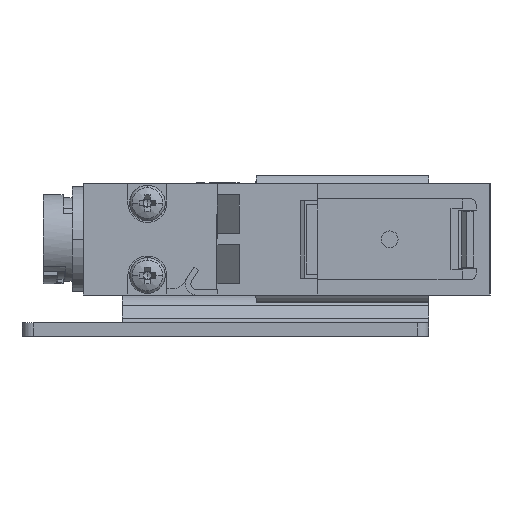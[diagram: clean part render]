
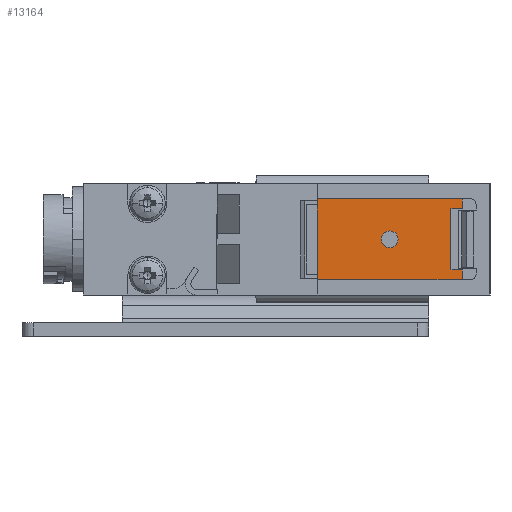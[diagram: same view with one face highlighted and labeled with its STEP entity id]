
A CAD part, left-side view. The second image highlights one B-rep face of the part: STEP entity #13164.
In plain terms, the highlighted planar face has unit normal (-1, 0, 0) as drawn and (0, 0, 1) by its records, which use the part's own axes.
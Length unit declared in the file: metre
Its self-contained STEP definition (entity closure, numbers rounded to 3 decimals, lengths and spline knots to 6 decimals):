
#67 = EDGE_CURVE ( 'NONE', #2129, #16964, #151, .T. ) ;
#151 = LINE ( 'NONE', #14212, #17950 ) ;
#277 = DIRECTION ( 'NONE',  ( 1., 0., 0. ) ) ;
#304 = LINE ( 'NONE', #439, #14815 ) ;
#439 = CARTESIAN_POINT ( 'NONE',  ( 0., 0.0046, 0.006 ) ) ;
#1110 = DIRECTION ( 'NONE',  ( 1., 0., 0. ) ) ;
#1193 = DIRECTION ( 'NONE',  ( 0., -1., 0. ) ) ;
#1234 = ORIENTED_EDGE ( 'NONE', *, *, #16060, .F. ) ;
#1520 = DIRECTION ( 'NONE',  ( 0., 1., 0. ) ) ;
#1561 = DIRECTION ( 'NONE',  ( 1., 0., 0. ) ) ;
#1687 = CARTESIAN_POINT ( 'NONE',  ( 0., 0.0166, 0.006 ) ) ;
#1704 = DIRECTION ( 'NONE',  ( 1., 0., 0. ) ) ;
#2035 = CARTESIAN_POINT ( 'NONE',  ( 0.00275, 0.0046, 0.006 ) ) ;
#2129 = VERTEX_POINT ( 'NONE', #2035 ) ;
#2336 = DIRECTION ( 'NONE',  ( 0., -1., 0. ) ) ;
#2356 = EDGE_CURVE ( 'NONE', #16964, #9794, #13511, .T. ) ;
#2508 = CIRCLE ( 'NONE', #3910, 0.00075 ) ;
#2556 = LINE ( 'NONE', #11503, #16612 ) ;
#2760 = CARTESIAN_POINT ( 'NONE',  ( 0.003625, 0.0036, 0.006 ) ) ;
#3372 = CARTESIAN_POINT ( 'NONE',  ( 0.003625, 0.0036, 0.006 ) ) ;
#3476 = EDGE_CURVE ( 'NONE', #14757, #13754, #13911, .T. ) ;
#3910 = AXIS2_PLACEMENT_3D ( 'NONE', #4469, #14287, #5888 ) ;
#4166 = CIRCLE ( 'NONE', #13413, 0.00075 ) ;
#4333 = ORIENTED_EDGE ( 'NONE', *, *, #7488, .F. ) ;
#4434 = CARTESIAN_POINT ( 'NONE',  ( -0.003625, 0.0036, 0.006 ) ) ;
#4469 = CARTESIAN_POINT ( 'NONE',  ( 0., 0.0101, 0.006 ) ) ;
#5255 = VECTOR ( 'NONE', #1520, 1. ) ;
#5282 = CARTESIAN_POINT ( 'NONE',  ( -0.00275, 0.0041, 0.006 ) ) ;
#5330 = ORIENTED_EDGE ( 'NONE', *, *, #16415, .F. ) ;
#5580 = DIRECTION ( 'NONE',  ( -1., 0., 0. ) ) ;
#5678 = DIRECTION ( 'NONE',  ( 0., 1., 0. ) ) ;
#5749 = CARTESIAN_POINT ( 'NONE',  ( -0.00275, 0.0036, 0.006 ) ) ;
#5888 = DIRECTION ( 'NONE',  ( 1., 0., 0. ) ) ;
#6023 = VECTOR ( 'NONE', #5678, 1. ) ;
#6312 = EDGE_CURVE ( 'NONE', #10377, #14757, #2556, .T. ) ;
#6685 = ORIENTED_EDGE ( 'NONE', *, *, #6312, .T. ) ;
#6781 = EDGE_LOOP ( 'NONE', ( #10499, #4333, #17205, #15856, #5330, #7239, #1234, #6685 ) ) ;
#7239 = ORIENTED_EDGE ( 'NONE', *, *, #17368, .F. ) ;
#7488 = EDGE_CURVE ( 'NONE', #2129, #13754, #304, .T. ) ;
#7861 = VERTEX_POINT ( 'NONE', #11326 ) ;
#7887 = EDGE_CURVE ( 'NONE', #8816, #17823, #2508, .T. ) ;
#8372 = PLANE ( 'NONE',  #12830 ) ;
#8607 = FACE_OUTER_BOUND ( 'NONE', #6781, .T. ) ;
#8816 = VERTEX_POINT ( 'NONE', #14827 ) ;
#9321 = CARTESIAN_POINT ( 'NONE',  ( 0.00275, 0.0036, 0.006 ) ) ;
#9526 = DIRECTION ( 'NONE',  ( 0., 0., 1. ) ) ;
#9758 = VECTOR ( 'NONE', #1561, 1. ) ;
#9794 = VERTEX_POINT ( 'NONE', #3372 ) ;
#10377 = VERTEX_POINT ( 'NONE', #4434 ) ;
#10499 = ORIENTED_EDGE ( 'NONE', *, *, #3476, .T. ) ;
#10718 = CARTESIAN_POINT ( 'NONE',  ( 0.003625, 0.0101, 0.006 ) ) ;
#10996 = CARTESIAN_POINT ( 'NONE',  ( -0.00075, 0.0101, 0.006 ) ) ;
#11012 = EDGE_CURVE ( 'NONE', #17823, #8816, #4166, .T. ) ;
#11143 = VECTOR ( 'NONE', #2336, 1. ) ;
#11323 = CARTESIAN_POINT ( 'NONE',  ( -0.003625, 0.0101, 0.006 ) ) ;
#11326 = CARTESIAN_POINT ( 'NONE',  ( -0.003625, 0.0166, 0.006 ) ) ;
#11503 = CARTESIAN_POINT ( 'NONE',  ( -0.003188, 0.0036, 0.006 ) ) ;
#11761 = EDGE_LOOP ( 'NONE', ( #13777, #13644 ) ) ;
#12010 = VECTOR ( 'NONE', #277, 1. ) ;
#12766 = FACE_BOUND ( 'NONE', #11761, .T. ) ;
#12830 = AXIS2_PLACEMENT_3D ( 'NONE', #2760, #13982, #5580 ) ;
#13077 = DIRECTION ( 'NONE',  ( -1., 0., 0. ) ) ;
#13133 = CARTESIAN_POINT ( 'NONE',  ( 0.003625, 0.0166, 0.006 ) ) ;
#13164 = ADVANCED_FACE ( 'NONE', ( #12766, #8607 ), #8372, .F. ) ;
#13413 = AXIS2_PLACEMENT_3D ( 'NONE', #17925, #9526, #1110 ) ;
#13459 = VERTEX_POINT ( 'NONE', #13133 ) ;
#13511 = LINE ( 'NONE', #17871, #9758 ) ;
#13644 = ORIENTED_EDGE ( 'NONE', *, *, #11012, .F. ) ;
#13754 = VERTEX_POINT ( 'NONE', #16166 ) ;
#13777 = ORIENTED_EDGE ( 'NONE', *, *, #7887, .F. ) ;
#13911 = LINE ( 'NONE', #5282, #6023 ) ;
#13982 = DIRECTION ( 'NONE',  ( 0., 0., -1. ) ) ;
#14212 = CARTESIAN_POINT ( 'NONE',  ( 0.00275, 0.0041, 0.006 ) ) ;
#14287 = DIRECTION ( 'NONE',  ( 0., 0., 1. ) ) ;
#14455 = LINE ( 'NONE', #10718, #11143 ) ;
#14757 = VERTEX_POINT ( 'NONE', #5749 ) ;
#14815 = VECTOR ( 'NONE', #13077, 1. ) ;
#14827 = CARTESIAN_POINT ( 'NONE',  ( 0.00075, 0.0101, 0.006 ) ) ;
#15856 = ORIENTED_EDGE ( 'NONE', *, *, #2356, .T. ) ;
#16060 = EDGE_CURVE ( 'NONE', #10377, #7861, #16466, .T. ) ;
#16166 = CARTESIAN_POINT ( 'NONE',  ( -0.00275, 0.0046, 0.006 ) ) ;
#16199 = LINE ( 'NONE', #1687, #12010 ) ;
#16415 = EDGE_CURVE ( 'NONE', #13459, #9794, #14455, .T. ) ;
#16466 = LINE ( 'NONE', #11323, #5255 ) ;
#16612 = VECTOR ( 'NONE', #1704, 1. ) ;
#16964 = VERTEX_POINT ( 'NONE', #9321 ) ;
#17205 = ORIENTED_EDGE ( 'NONE', *, *, #67, .T. ) ;
#17368 = EDGE_CURVE ( 'NONE', #7861, #13459, #16199, .T. ) ;
#17823 = VERTEX_POINT ( 'NONE', #10996 ) ;
#17871 = CARTESIAN_POINT ( 'NONE',  ( 0.003188, 0.0036, 0.006 ) ) ;
#17925 = CARTESIAN_POINT ( 'NONE',  ( 0., 0.0101, 0.006 ) ) ;
#17950 = VECTOR ( 'NONE', #1193, 1. ) ;
